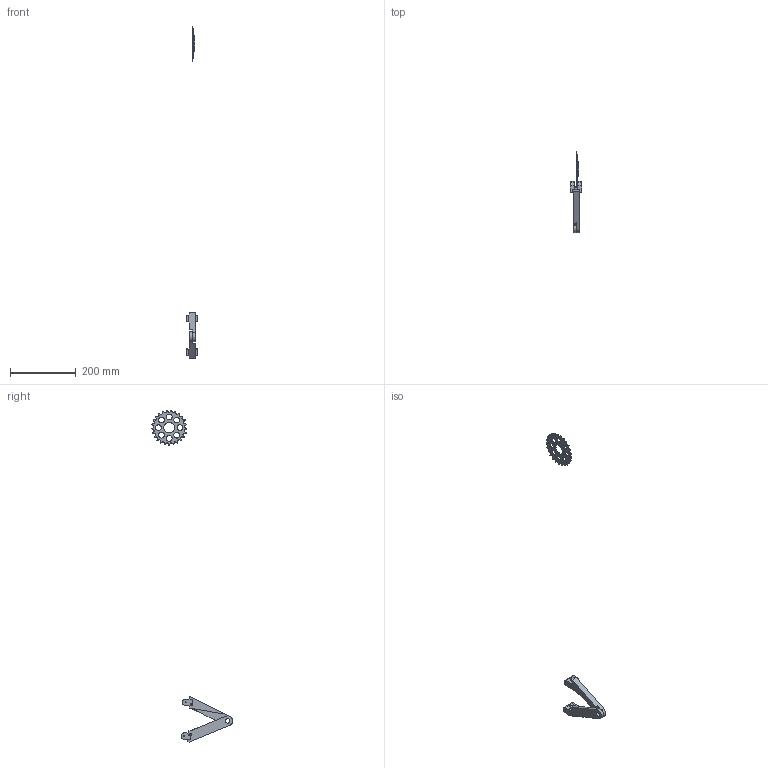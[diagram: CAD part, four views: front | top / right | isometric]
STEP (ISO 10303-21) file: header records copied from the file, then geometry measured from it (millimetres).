
FILE_DESCRIPTION(/* description */ (''),/* implementation_level */ '2;1');
FILE_NAME(/* name */ 'C:/Users/ramar/Desktop/asofij/Overall v2.step',/* time_stamp */ '2021-02-07T11:45:14-06:00',/* author */ (''),/* organization */ (''),/* preprocessor_version */ 'ST-DEVELOPER v18.1',/* originating_system */ 'Autodesk Translation Framework v9.7.1.1290',/* authorisation */ '');
FILE_SCHEMA (('AUTOMOTIVE_DESIGN { 1 0 10303 214 3 1 1 }'));
Length unit declared in the file: millimetre
Products named in the file (8): Overall; Sprocket; Sprocket_1; A  Arms; Component1; Component2; Component3; Component4
Assembly tree (7 placements, depth 3):
  Overall
    Sprocket
      Sprocket_1
    A  Arms
      Component1
      Component2
      Component3
      Component4
Bounding box: 34.1 x 246.14 x 1007.65 mm (x, y, z)
Volume: 159079.6 mm3; surface area: 53684 mm2
Topology: 5 solids, 5 shells, 185 faces, 515 edges, 335 vertices
Faces by surface type: cylinder 107, plane 78
Full cylindrical faces by diameter (mm): 3 x4, 3.5 x4, 13.97 x2, 17.5 x8, 32.5 x1, 42 x1, 47.5 x1, 90 x1
Entity records: 6287 total; most frequent: DIRECTION 1136, CARTESIAN_POINT 1050, ORIENTED_EDGE 1030, EDGE_CURVE 515, AXIS2_PLACEMENT_3D 421, VERTEX_POINT 335, LINE 294, VECTOR 294
